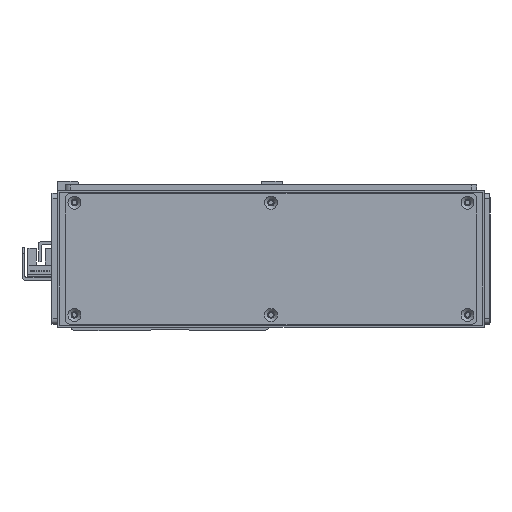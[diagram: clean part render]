
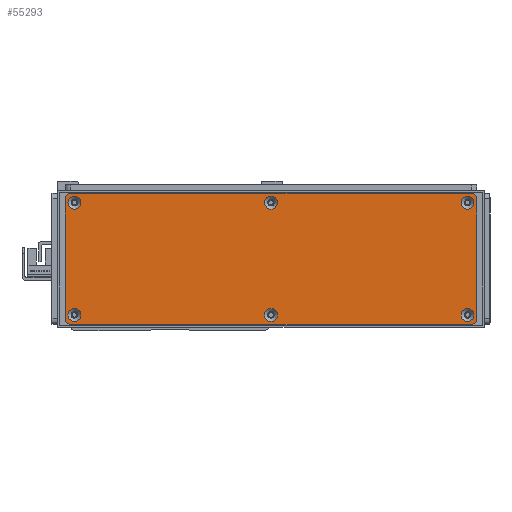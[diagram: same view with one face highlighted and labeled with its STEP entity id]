
A CAD part, front view. The second image highlights one B-rep face of the part: STEP entity #55293.
In plain terms, the highlighted planar face has unit normal (0, -1, 0).
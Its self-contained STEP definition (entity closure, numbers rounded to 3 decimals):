
#2190=FACE_BOUND('',#9266,.T.);
#2191=FACE_BOUND('',#9267,.T.);
#2192=FACE_BOUND('',#9268,.T.);
#2193=FACE_BOUND('',#9269,.T.);
#2194=FACE_BOUND('',#9270,.T.);
#2195=FACE_BOUND('',#9271,.T.);
#3354=CIRCLE('',#59556,3.45);
#3357=CIRCLE('',#59561,3.45);
#3360=CIRCLE('',#59566,3.45);
#3363=CIRCLE('',#59571,3.45);
#3366=CIRCLE('',#59576,3.45);
#3369=CIRCLE('',#59581,3.45);
#3372=CIRCLE('',#59586,3.);
#3374=CIRCLE('',#59589,3.);
#3375=CIRCLE('',#59590,3.);
#3376=CIRCLE('',#59591,3.);
#6096=FACE_OUTER_BOUND('',#9265,.T.);
#9265=EDGE_LOOP('',(#49842,#49843,#49844,#49845,#49846,#49847,#49848,#49849));
#9266=EDGE_LOOP('',(#49850));
#9267=EDGE_LOOP('',(#49851));
#9268=EDGE_LOOP('',(#49852));
#9269=EDGE_LOOP('',(#49853));
#9270=EDGE_LOOP('',(#49854));
#9271=EDGE_LOOP('',(#49855));
#15543=LINE('',#91069,#21870);
#15544=LINE('',#91073,#21871);
#15545=LINE('',#91077,#21872);
#15546=LINE('',#91080,#21873);
#21870=VECTOR('',#73524,10.);
#21871=VECTOR('',#73527,10.);
#21872=VECTOR('',#73530,10.);
#21873=VECTOR('',#73533,10.);
#27056=VERTEX_POINT('',#90999);
#27059=VERTEX_POINT('',#91009);
#27062=VERTEX_POINT('',#91019);
#27065=VERTEX_POINT('',#91029);
#27068=VERTEX_POINT('',#91039);
#27071=VERTEX_POINT('',#91049);
#27074=VERTEX_POINT('',#91059);
#27075=VERTEX_POINT('',#91060);
#27078=VERTEX_POINT('',#91068);
#27079=VERTEX_POINT('',#91070);
#27080=VERTEX_POINT('',#91072);
#27081=VERTEX_POINT('',#91074);
#27082=VERTEX_POINT('',#91076);
#27083=VERTEX_POINT('',#91078);
#34678=EDGE_CURVE('',#27056,#27056,#3354,.T.);
#34683=EDGE_CURVE('',#27059,#27059,#3357,.T.);
#34688=EDGE_CURVE('',#27062,#27062,#3360,.T.);
#34693=EDGE_CURVE('',#27065,#27065,#3363,.T.);
#34698=EDGE_CURVE('',#27068,#27068,#3366,.T.);
#34703=EDGE_CURVE('',#27071,#27071,#3369,.T.);
#34708=EDGE_CURVE('',#27074,#27075,#3372,.T.);
#34712=EDGE_CURVE('',#27074,#27078,#15543,.T.);
#34713=EDGE_CURVE('',#27079,#27078,#3374,.T.);
#34714=EDGE_CURVE('',#27079,#27080,#15544,.T.);
#34715=EDGE_CURVE('',#27081,#27080,#3375,.T.);
#34716=EDGE_CURVE('',#27081,#27082,#15545,.T.);
#34717=EDGE_CURVE('',#27083,#27082,#3376,.T.);
#34718=EDGE_CURVE('',#27083,#27075,#15546,.T.);
#49842=ORIENTED_EDGE('',*,*,#34708,.F.);
#49843=ORIENTED_EDGE('',*,*,#34712,.T.);
#49844=ORIENTED_EDGE('',*,*,#34713,.F.);
#49845=ORIENTED_EDGE('',*,*,#34714,.T.);
#49846=ORIENTED_EDGE('',*,*,#34715,.F.);
#49847=ORIENTED_EDGE('',*,*,#34716,.T.);
#49848=ORIENTED_EDGE('',*,*,#34717,.F.);
#49849=ORIENTED_EDGE('',*,*,#34718,.T.);
#49850=ORIENTED_EDGE('',*,*,#34678,.T.);
#49851=ORIENTED_EDGE('',*,*,#34683,.T.);
#49852=ORIENTED_EDGE('',*,*,#34688,.T.);
#49853=ORIENTED_EDGE('',*,*,#34693,.T.);
#49854=ORIENTED_EDGE('',*,*,#34698,.T.);
#49855=ORIENTED_EDGE('',*,*,#34703,.T.);
#52596=PLANE('',#59588);
#55293=ADVANCED_FACE('',(#6096,#2190,#2191,#2192,#2193,#2194,#2195),#52596,
 .T.);
#59556=AXIS2_PLACEMENT_3D('',#91000,#73444,#73445);
#59561=AXIS2_PLACEMENT_3D('',#91010,#73456,#73457);
#59566=AXIS2_PLACEMENT_3D('',#91020,#73468,#73469);
#59571=AXIS2_PLACEMENT_3D('',#91030,#73480,#73481);
#59576=AXIS2_PLACEMENT_3D('',#91040,#73492,#73493);
#59581=AXIS2_PLACEMENT_3D('',#91050,#73504,#73505);
#59586=AXIS2_PLACEMENT_3D('',#91061,#73516,#73517);
#59588=AXIS2_PLACEMENT_3D('',#91067,#73522,#73523);
#59589=AXIS2_PLACEMENT_3D('',#91071,#73525,#73526);
#59590=AXIS2_PLACEMENT_3D('',#91075,#73528,#73529);
#59591=AXIS2_PLACEMENT_3D('',#91079,#73531,#73532);
#73444=DIRECTION('center_axis',(0.,1.,0.));
#73445=DIRECTION('ref_axis',(1.,0.,0.));
#73456=DIRECTION('center_axis',(0.,1.,0.));
#73457=DIRECTION('ref_axis',(1.,0.,0.));
#73468=DIRECTION('center_axis',(0.,1.,0.));
#73469=DIRECTION('ref_axis',(1.,0.,0.));
#73480=DIRECTION('center_axis',(0.,1.,0.));
#73481=DIRECTION('ref_axis',(1.,0.,0.));
#73492=DIRECTION('center_axis',(0.,1.,0.));
#73493=DIRECTION('ref_axis',(1.,0.,0.));
#73504=DIRECTION('center_axis',(0.,1.,0.));
#73505=DIRECTION('ref_axis',(1.,0.,0.));
#73516=DIRECTION('center_axis',(0.,1.,0.));
#73517=DIRECTION('ref_axis',(-0.707,0.,0.707));
#73522=DIRECTION('center_axis',(0.,-1.,0.));
#73523=DIRECTION('ref_axis',(0.,0.,-1.));
#73524=DIRECTION('',(0.,0.,-1.));
#73525=DIRECTION('center_axis',(0.,1.,0.));
#73526=DIRECTION('ref_axis',(-0.707,0.,-0.707));
#73527=DIRECTION('',(1.,0.,0.));
#73528=DIRECTION('center_axis',(0.,1.,0.));
#73529=DIRECTION('ref_axis',(0.707,0.,-0.707));
#73530=DIRECTION('',(0.,0.,1.));
#73531=DIRECTION('center_axis',(0.,1.,0.));
#73532=DIRECTION('ref_axis',(0.707,0.,0.707));
#73533=DIRECTION('',(-1.,0.,0.));
#90999=CARTESIAN_POINT('',(101.55,-1.5,30.));
#91000=CARTESIAN_POINT('Origin',(105.,-1.5,30.));
#91009=CARTESIAN_POINT('',(-3.45,-1.5,-30.));
#91010=CARTESIAN_POINT('Origin',(0.,-1.5,-30.));
#91019=CARTESIAN_POINT('',(-108.45,-1.5,30.));
#91020=CARTESIAN_POINT('Origin',(-105.,-1.5,30.));
#91029=CARTESIAN_POINT('',(-108.45,-1.5,-30.));
#91030=CARTESIAN_POINT('Origin',(-105.,-1.5,-30.));
#91039=CARTESIAN_POINT('',(-3.45,-1.5,30.));
#91040=CARTESIAN_POINT('Origin',(0.,-1.5,30.));
#91049=CARTESIAN_POINT('',(101.55,-1.5,-30.));
#91050=CARTESIAN_POINT('Origin',(105.,-1.5,-30.));
#91059=CARTESIAN_POINT('',(-110.,-1.5,32.));
#91060=CARTESIAN_POINT('',(-107.,-1.5,35.));
#91061=CARTESIAN_POINT('Origin',(-107.,-1.5,32.));
#91067=CARTESIAN_POINT('Origin',(0.,-1.5,0.));
#91068=CARTESIAN_POINT('',(-110.,-1.5,-32.));
#91069=CARTESIAN_POINT('',(-110.,-1.5,35.));
#91070=CARTESIAN_POINT('',(-107.,-1.5,-35.));
#91071=CARTESIAN_POINT('Origin',(-107.,-1.5,-32.));
#91072=CARTESIAN_POINT('',(107.,-1.5,-35.));
#91073=CARTESIAN_POINT('',(-110.,-1.5,-35.));
#91074=CARTESIAN_POINT('',(110.,-1.5,-32.));
#91075=CARTESIAN_POINT('Origin',(107.,-1.5,-32.));
#91076=CARTESIAN_POINT('',(110.,-1.5,32.));
#91077=CARTESIAN_POINT('',(110.,-1.5,-35.));
#91078=CARTESIAN_POINT('',(107.,-1.5,35.));
#91079=CARTESIAN_POINT('Origin',(107.,-1.5,32.));
#91080=CARTESIAN_POINT('',(110.,-1.5,35.));
